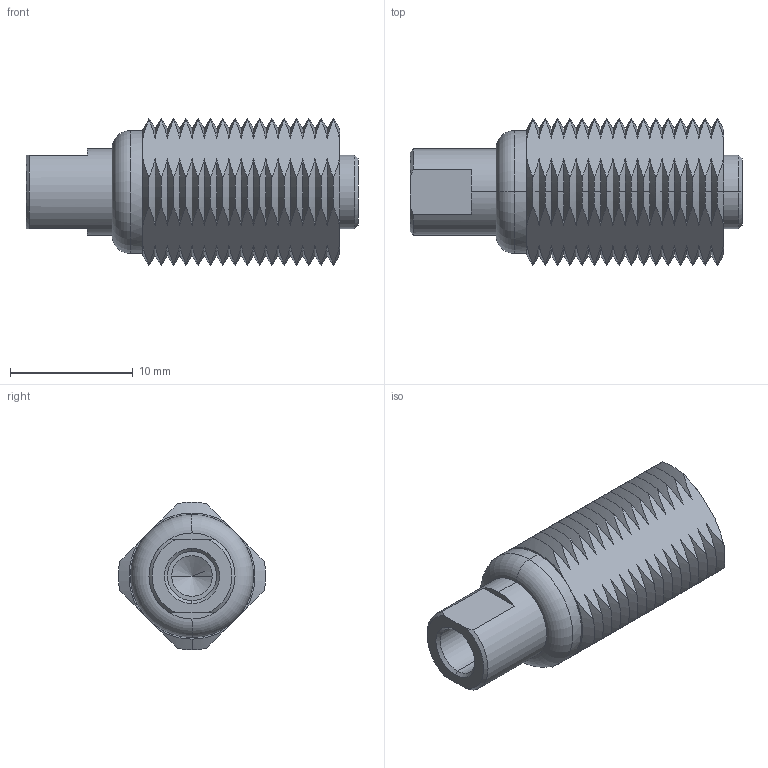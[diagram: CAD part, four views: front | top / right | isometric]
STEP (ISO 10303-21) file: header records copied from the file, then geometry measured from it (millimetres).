
FILE_DESCRIPTION (( 'STEP AP203' ), '1' );
FILE_NAME ('32790.W0141.step', '2013-07-26T15:09:59', ( 'Wixroyd' ), ( 'Wixroyd' ), 'SwSTEP 2.0', 'SolidWorks 2009', '' );
FILE_SCHEMA (( 'CONFIG_CONTROL_DESIGN' ));
Length unit declared in the file: millimetre
Products named in the file (3): 32790.W0141; Part1_32790.W0141; Part2_32790.W0141
Assembly tree (2 placements, depth 2):
  32790.W0141
    Part2_32790.W0141
    Part1_32790.W0141
Bounding box: 27 x 11.97 x 12 mm (x, y, z)
Volume: 1552.9 mm3; surface area: 2223.2 mm2
Topology: 2 solids, 2 shells, 211 faces, 598 edges, 392 vertices
Faces by surface type: cone 172, plane 19, cylinder 18, torus 2
Entity records: 7475 total; most frequent: CARTESIAN_POINT 1982, ORIENTED_EDGE 1188, DIRECTION 1020, EDGE_CURVE 594, AXIS2_PLACEMENT_3D 470, VERTEX_POINT 392, B_SPLINE_CURVE_WITH_KNOTS 260, CIRCLE 254
